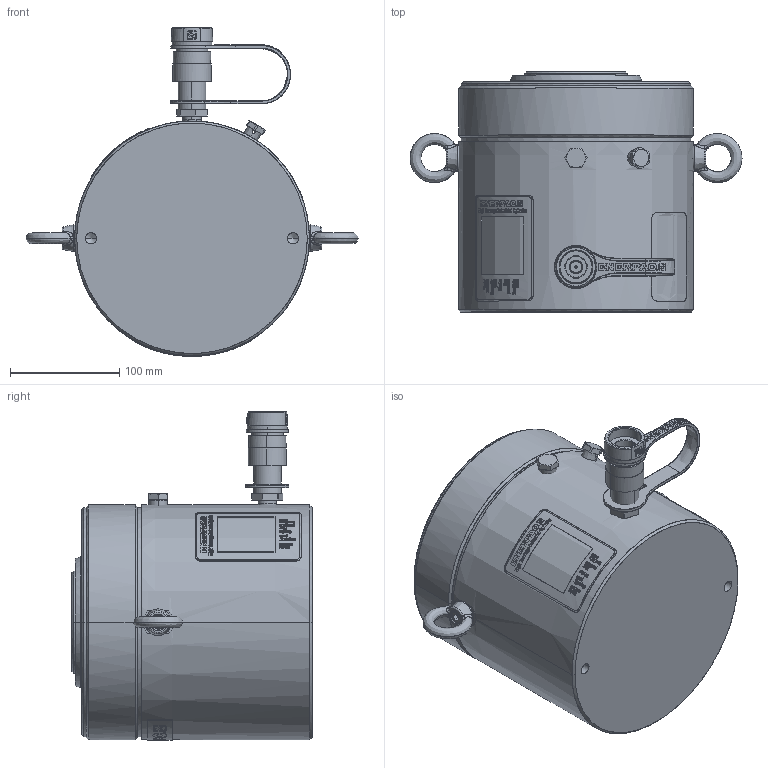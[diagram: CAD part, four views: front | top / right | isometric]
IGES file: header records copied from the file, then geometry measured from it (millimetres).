
Start section:  PTC IGES file: hcg1502.igs
Global section: file name: hcg1502.igs; native system: Creo Parametric by PTC Inc.; preprocessor: 2015290; author: Akhilesh.Subrahmanya; organization: Unknown; date: 20170707.135103; units: millimetre
Bounding box: 304 x 220 x 301.12 mm (x, y, z)
Surface area: 438567.9 mm2 (no closed solid volume)
Topology: 0 solids, 0 shells, 805 faces, 6710 edges, 6697 vertices
Faces by surface type: revolution 443, bspline 349, extrusion 13
